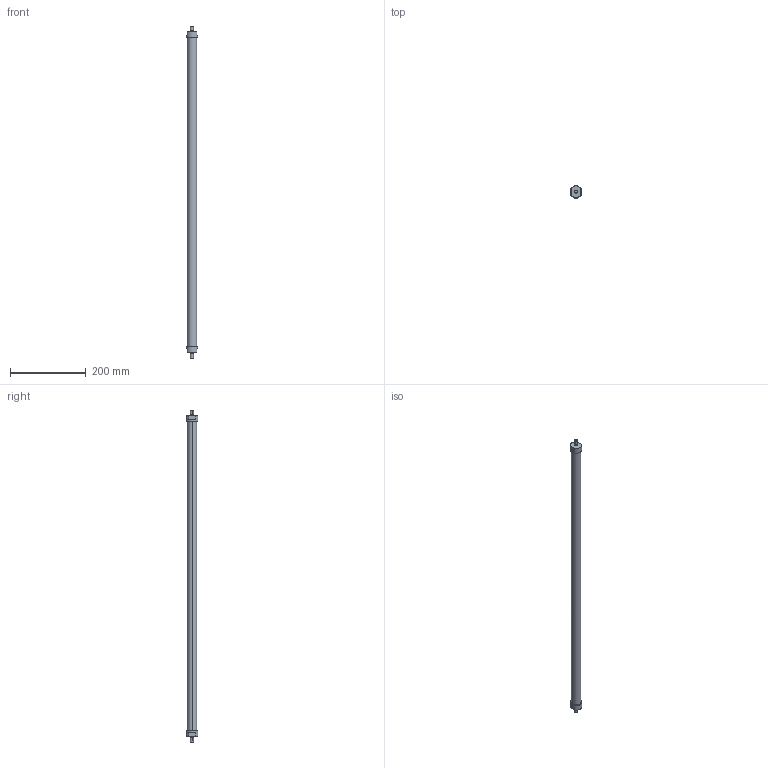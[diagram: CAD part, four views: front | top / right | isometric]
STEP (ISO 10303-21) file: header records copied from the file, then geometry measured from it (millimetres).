
FILE_DESCRIPTION(('STEP AP214'),'1');
FILE_NAME('ETT-R050N854.stp','2015-02-02T15:50:24',(' '),(' '),'Spatial InterOp 3D',' ',' ');
FILE_SCHEMA(('automotive_design'));
Length unit declared in the file: metre
Products named in the file (3): 1; 2; 3
Bounding box: 31 x 31 x 874 mm (x, y, z)
Volume: 422577.3 mm3; surface area: 70158.7 mm2
Topology: 1 solids, 7 shells, 30 faces, 81 edges, 63 vertices
Faces by surface type: plane 16, cylinder 14
Entity records: 1295 total; most frequent: DIRECTION 194, CARTESIAN_POINT 177, ORIENTED_EDGE 138, EDGE_CURVE 81, AXIS2_PLACEMENT_3D 80, VERTEX_POINT 63, CIRCLE 47, EDGE_LOOP 36
